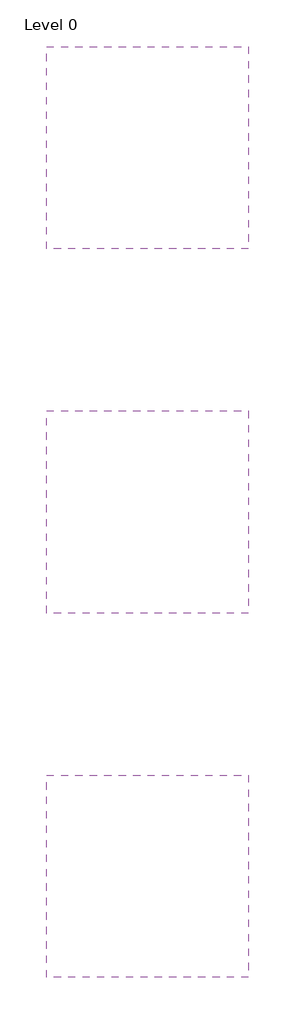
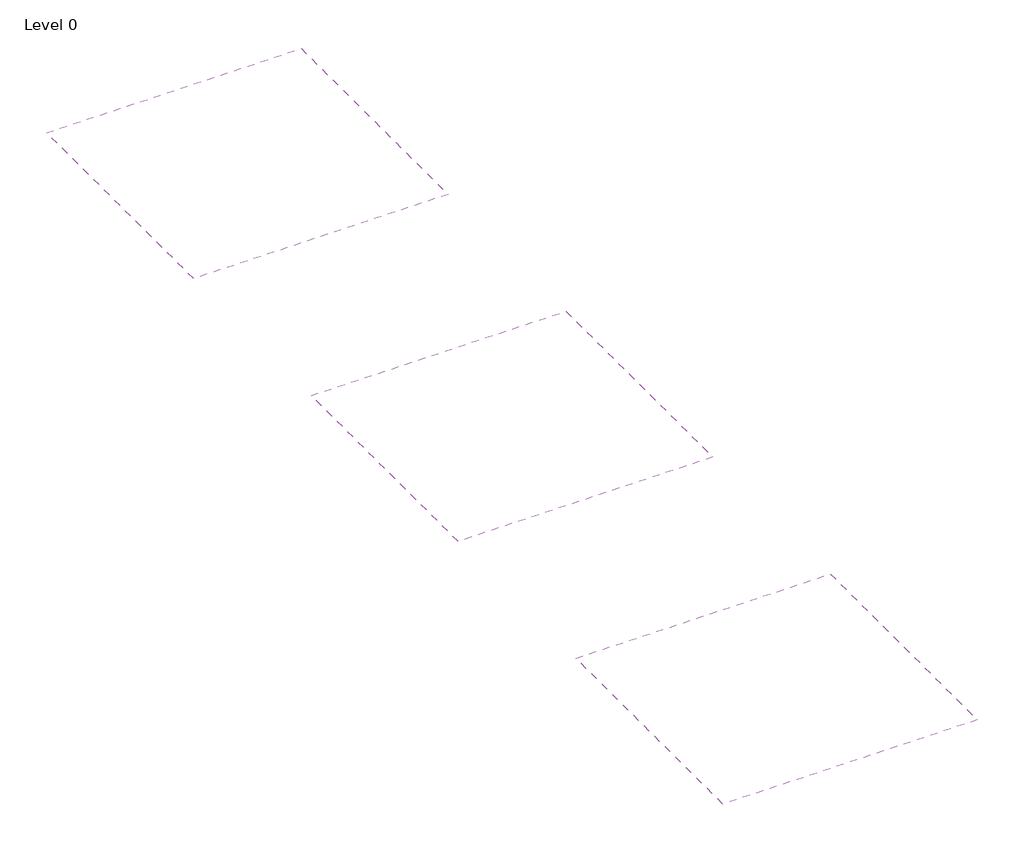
# One storey: 3 coverings.
"""IFC4 building model written with IfcOpenShell, lengths in millimetres."""

import ifcopenshell
import ifcopenshell.guid

model = None  # the IFC model being written
_history = None  # IfcOwnerHistory: only IFC2X3 demands one
_inside = {}  # id of a spatial element -> (the spatial element, [elements in it])
_under = {}  # id of a project, library or spatial element -> (it, [spatial elements below it])
_declared = {}  # id of a project -> (the project, [libraries it declares])
_typed = {}  # id of a type object -> (the type object, [elements of that type])
_made_of = {}  # id of a material, layer set ... -> (it, [elements and type objects made of it])


def new_model(schema):
    """Start an empty IFC model of exactly this schema.

    Asked for "IFC4X3", IfcOpenShell would pick the latest addendum, in which some entities
    have other attributes; the version numbers below select the first issue.
    IFC2X3 requires an IfcOwnerHistory on every rooted entity: one is made here for all.
    """
    global model, _history
    if schema == "IFC4X3":
        model = ifcopenshell.file(schema_version=(4, 3, 0, 0))
    else:
        model = ifcopenshell.file(schema=schema)
    _inside.clear()
    _under.clear()
    _declared.clear()
    _typed.clear()
    _made_of.clear()
    _history = None
    if model.schema == "IFC2X3":
        org = make("IfcOrganization", Name="unknown")
        user = make(
            "IfcPersonAndOrganization",
            ThePerson=make("IfcPerson", FamilyName="unknown"),
            TheOrganization=org,
        )
        app = make(
            "IfcApplication",
            ApplicationDeveloper=org,
            Version="unknown",
            ApplicationFullName="unknown",
            ApplicationIdentifier="unknown",
        )
        _history = make(
            "IfcOwnerHistory",
            OwningUser=user,
            OwningApplication=app,
            ChangeAction="ADDED",
            CreationDate=0,
        )
    return model


def make(cls, **values):
    """One entity of the class cls with the attributes given. An attribute that is None is left unset."""
    return model.create_entity(
        cls, **{name: value for name, value in values.items() if value is not None}
    )


def rooted(cls, **values):
    """An entity with a GlobalId (a new one), such as an element, a storey or a relation."""
    return make(cls, GlobalId=ifcopenshell.guid.new(), OwnerHistory=_history, **values)


def si_unit(unit_type, name, prefix=None):
    """IfcSIUnit, for example si_unit("LENGTHUNIT", "METRE", prefix="MILLI")."""
    return make("IfcSIUnit", UnitType=unit_type, Prefix=prefix, Name=name)


def assignment(units):
    """IfcUnitAssignment: the units of a project."""
    return None if units is None else make("IfcUnitAssignment", Units=units)


def point(xyz):
    """IfcCartesianPoint."""
    return None if xyz is None else make("IfcCartesianPoint", Coordinates=xyz)


def direction(xyz):
    """IfcDirection."""
    return None if xyz is None else make("IfcDirection", DirectionRatios=xyz)


def frame(location, z_axis=None, x_axis=None):
    """IfcAxis2Placement3D, a coordinate frame: its origin and axes. An axis left out is left unset."""
    return make(
        "IfcAxis2Placement3D",
        Location=point(location),
        Axis=direction(z_axis),
        RefDirection=direction(x_axis),
    )


def origin():
    """The frame at (0, 0, 0) with its axes left unset."""
    return frame((0.0, 0.0, 0.0))


def place(relative_to, where):
    """IfcLocalPlacement: puts the frame where relative to a parent placement (None: the world)."""
    return make(
        "IfcLocalPlacement", PlacementRelTo=relative_to, RelativePlacement=where
    )


def context(
    kind, dimensions, precision=None, world=None, true_north=None, identifier=None
):
    """IfcGeometricRepresentationContext, for example the 3D "Model" context."""
    return make(
        "IfcGeometricRepresentationContext",
        ContextIdentifier=identifier,
        ContextType=kind,
        CoordinateSpaceDimension=dimensions,
        Precision=precision,
        WorldCoordinateSystem=world,
        TrueNorth=true_north,
    )


def project(units=None, contexts=None):
    """IfcProject with its units and contexts."""
    return rooted(
        "IfcProject",
        Name="project",
        RepresentationContexts=contexts,
        UnitsInContext=assignment(units),
    )


def spatial(cls, under=None, at=None, **own):
    """A site, building, storey or space (cls), placed at a placement, below another one or the project."""
    s = rooted(cls, ObjectPlacement=at, **own)
    if under is not None:
        _under.setdefault(under.id(), (under, []))[1].append(s)
    return s


def polyline(points):
    """IfcPolyline through the points."""
    return make("IfcPolyline", Points=[point(p) for p in points])


def outline(outer, holes=None, kind="AREA"):
    """IfcArbitraryClosedProfileDef: a profile drawn as a closed curve; with holes, ...WithVoids."""
    if holes is None:
        return make("IfcArbitraryClosedProfileDef", ProfileType=kind, OuterCurve=outer)
    return make(
        "IfcArbitraryProfileDefWithVoids",
        ProfileType=kind,
        OuterCurve=outer,
        InnerCurves=holes,
    )


def extrude(swept, where, along, depth):
    """IfcExtrudedAreaSolid: the profile swept, set in the frame where, extruded along a direction by depth."""
    return make(
        "IfcExtrudedAreaSolid",
        SweptArea=swept,
        Position=where,
        ExtrudedDirection=direction(along),
        Depth=depth,
    )


def shape(context_of_items, identifier, shape_type, items):
    """IfcShapeRepresentation: the items that make up one representation, for example the "Body"."""
    return make(
        "IfcShapeRepresentation",
        ContextOfItems=context_of_items,
        RepresentationIdentifier=identifier,
        RepresentationType=shape_type,
        Items=items,
    )


def made_of(thing, what):
    """Note that an element or type object is made of a material, layer set ...; save() writes the relation."""
    if what is not None:
        _made_of.setdefault(what.id(), (what, []))[1].append(thing)
    return thing


def element(
    cls,
    number,
    at=None,
    inside=None,
    cuts=None,
    type_object=None,
    material=None,
    context=None,
    identifier="Body",
    shape_type=None,
    held_by="IfcProductDefinitionShape",
    body=None,
    shapes=None,
    **own,
):
    """One element of the class cls, such as IfcWall. Its Tag is "e" and its number.

    at: its placement. inside: the storey or other place that contains it. cuts: it is an
    opening in that element (IfcRelVoidsElement). A single representation is given by context,
    identifier, shape_type and body (its items); several are given by shapes. held_by: the class
    of the entity that holds the representations. save() writes the other relations.
    """
    e = rooted(cls, Tag="e%d" % number, ObjectPlacement=at, **own)
    if body is not None:
        shapes = [shape(context, identifier, shape_type, body)]
    if shapes is not None:
        e.Representation = make(held_by, Representations=shapes)
    if inside is not None:
        _inside.setdefault(inside.id(), (inside, []))[1].append(e)
    if cuts is not None:
        rooted(
            "IfcRelVoidsElement", RelatingBuildingElement=cuts, RelatedOpeningElement=e
        )
    if type_object is not None:
        _typed.setdefault(type_object.id(), (type_object, []))[1].append(e)
    return made_of(e, material)


def aggregate(whole, parts):
    """IfcRelAggregates: a whole, such as a stair, and the parts it consists of."""
    return rooted("IfcRelAggregates", RelatingObject=whole, RelatedObjects=parts)


def save(model, path):
    """Write the relations noted so far, then the file.

    IfcRelAggregates (storeys below a building ...), IfcRelContainedInSpatialStructure (elements
    in a storey), IfcRelDefinesByType, IfcRelAssociatesMaterial and IfcRelDeclares: one each for
    every whole, place, type object, material and project.
    """
    for whole, parts in _under.values():
        aggregate(whole, parts)
    for where, things in _inside.values():
        rooted(
            "IfcRelContainedInSpatialStructure",
            RelatedElements=things,
            RelatingStructure=where,
        )
    for kind, things in _typed.values():
        rooted("IfcRelDefinesByType", RelatedObjects=things, RelatingType=kind)
    for what, things in _made_of.values():
        rooted("IfcRelAssociatesMaterial", RelatedObjects=things, RelatingMaterial=what)
    for by, libraries in _declared.values():
        rooted("IfcRelDeclares", RelatingContext=by, RelatedDefinitions=libraries)
    model.write(path)


model = new_model("IFC4")

# Units and contexts
model_context = context("Model", 3, world=origin())
ifc_project = project(units=[si_unit("LENGTHUNIT", "METRE", prefix="MILLI")], contexts=[model_context])

# Site, building, storey
site = spatial("IfcSite", under=ifc_project)
building = spatial("IfcBuilding", under=site)
storey = spatial("IfcBuildingStorey", under=building, Name="Level 0", Elevation=0.0)

# Coverings
placement = place(None, origin())
element("IfcCovering", 1, ObjectType="NBS_Zentia_ModularSuspendedCeilingSystems_OpliaHAPlus_BoardEdgeProfiles", at=placement, inside=storey, context=model_context, shape_type="SweptSolid", body=[
    extrude(outline(polyline([(2999.979, -1103.0868474), (2999.979, -3603.0868474), (499.979, -3603.0868474), (499.979, -1103.0868474), (2999.979, -1103.0868474)])), frame((0.0, 0.0, 2600.0), z_axis=(0.0, 0.0, 1.0), x_axis=(1.0, 0.0, 0.0)), (0.0, 0.0, 1.0), 20.0),
])
element("IfcCovering", 2, ObjectType="NBS_Zentia_ModularSuspendedCeilingSystems_OpliaHAPlus_Tegular15EdgeProfiles", at=placement, inside=storey, context=model_context, shape_type="SweptSolid", body=[
    extrude(outline(polyline([(2999.979, -5603.0868474), (2999.979, -8103.0868474), (499.979, -8103.0868474), (499.979, -5603.0868474), (2999.979, -5603.0868474)])), frame((0.0, 0.0, 2600.0), z_axis=(0.0, 0.0, 1.0), x_axis=(1.0, 0.0, 0.0)), (0.0, 0.0, 1.0), 20.0),
])
element("IfcCovering", 3, ObjectType="NBS_Zentia_ModularSuspendedCeilingSystems_OpliaHAPlus_Tegular24EdgeProfiles", at=placement, inside=storey, context=model_context, shape_type="SweptSolid", body=[
    extrude(outline(polyline([(2999.979, -10103.0868474), (2999.979, -12603.0868474), (499.979, -12603.0868474), (499.979, -10103.0868474), (2999.979, -10103.0868474)])), frame((0.0, 0.0, 2600.0), z_axis=(0.0, 0.0, 1.0), x_axis=(1.0, 0.0, 0.0)), (0.0, 0.0, 1.0), 20.0),
])

save(model, "model.ifc")
